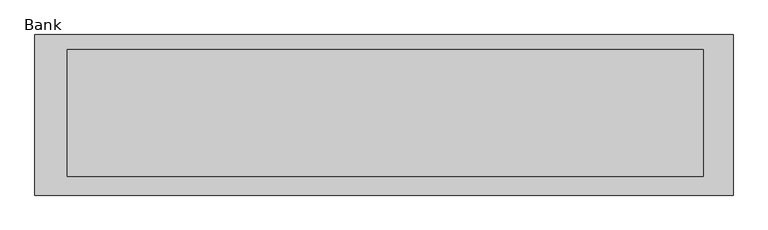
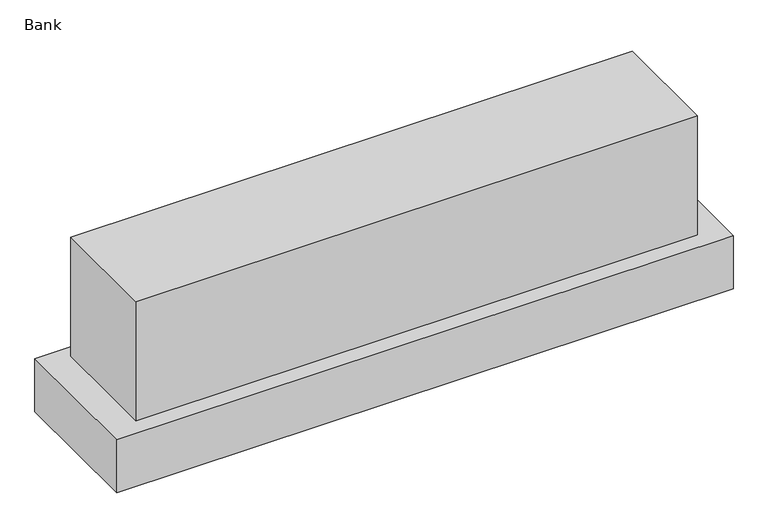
"""IFC4 building model written with IfcOpenShell, lengths in millimetres: furniture geometry, Fixierte Ausstattung Bank : Bank."""

import ifcopenshell
import ifcopenshell.guid

model = None  # the IFC model being written
_history = None  # IfcOwnerHistory: only IFC2X3 demands one
_inside = {}  # id of a spatial element -> (the spatial element, [elements in it])
_under = {}  # id of a project, library or spatial element -> (it, [spatial elements below it])
_declared = {}  # id of a project -> (the project, [libraries it declares])
_typed = {}  # id of a type object -> (the type object, [elements of that type])
_made_of = {}  # id of a material, layer set ... -> (it, [elements and type objects made of it])


def new_model(schema):
    """Start an empty IFC model of exactly this schema.

    Asked for "IFC4X3", IfcOpenShell would pick the latest addendum, in which some entities
    have other attributes; the version numbers below select the first issue.
    IFC2X3 requires an IfcOwnerHistory on every rooted entity: one is made here for all.
    """
    global model, _history
    if schema == "IFC4X3":
        model = ifcopenshell.file(schema_version=(4, 3, 0, 0))
    else:
        model = ifcopenshell.file(schema=schema)
    _inside.clear()
    _under.clear()
    _declared.clear()
    _typed.clear()
    _made_of.clear()
    _history = None
    if model.schema == "IFC2X3":
        org = make("IfcOrganization", Name="unknown")
        user = make(
            "IfcPersonAndOrganization",
            ThePerson=make("IfcPerson", FamilyName="unknown"),
            TheOrganization=org,
        )
        app = make(
            "IfcApplication",
            ApplicationDeveloper=org,
            Version="unknown",
            ApplicationFullName="unknown",
            ApplicationIdentifier="unknown",
        )
        _history = make(
            "IfcOwnerHistory",
            OwningUser=user,
            OwningApplication=app,
            ChangeAction="ADDED",
            CreationDate=0,
        )
    return model


def make(cls, **values):
    """One entity of the class cls with the attributes given. An attribute that is None is left unset."""
    return model.create_entity(
        cls, **{name: value for name, value in values.items() if value is not None}
    )


def rooted(cls, **values):
    """An entity with a GlobalId (a new one), such as an element, a storey or a relation."""
    return make(cls, GlobalId=ifcopenshell.guid.new(), OwnerHistory=_history, **values)


def si_unit(unit_type, name, prefix=None):
    """IfcSIUnit, for example si_unit("LENGTHUNIT", "METRE", prefix="MILLI")."""
    return make("IfcSIUnit", UnitType=unit_type, Prefix=prefix, Name=name)


def assignment(units):
    """IfcUnitAssignment: the units of a project."""
    return None if units is None else make("IfcUnitAssignment", Units=units)


def point(xyz):
    """IfcCartesianPoint."""
    return None if xyz is None else make("IfcCartesianPoint", Coordinates=xyz)


def direction(xyz):
    """IfcDirection."""
    return None if xyz is None else make("IfcDirection", DirectionRatios=xyz)


def frame(location, z_axis=None, x_axis=None):
    """IfcAxis2Placement3D, a coordinate frame: its origin and axes. An axis left out is left unset."""
    return make(
        "IfcAxis2Placement3D",
        Location=point(location),
        Axis=direction(z_axis),
        RefDirection=direction(x_axis),
    )


def origin():
    """The frame at (0, 0, 0) with its axes left unset."""
    return frame((0.0, 0.0, 0.0))


def origin_with_axes():
    """The frame at (0, 0, 0) with the z axis (0, 0, 1) and the x axis (1, 0, 0) written out."""
    return frame((0.0, 0.0, 0.0), z_axis=(0.0, 0.0, 1.0), x_axis=(1.0, 0.0, 0.0))


def place(relative_to, where):
    """IfcLocalPlacement: puts the frame where relative to a parent placement (None: the world)."""
    return make(
        "IfcLocalPlacement", PlacementRelTo=relative_to, RelativePlacement=where
    )


def context(
    kind, dimensions, precision=None, world=None, true_north=None, identifier=None
):
    """IfcGeometricRepresentationContext, for example the 3D "Model" context."""
    return make(
        "IfcGeometricRepresentationContext",
        ContextIdentifier=identifier,
        ContextType=kind,
        CoordinateSpaceDimension=dimensions,
        Precision=precision,
        WorldCoordinateSystem=world,
        TrueNorth=true_north,
    )


def project(units=None, contexts=None):
    """IfcProject with its units and contexts."""
    return rooted(
        "IfcProject",
        Name="project",
        RepresentationContexts=contexts,
        UnitsInContext=assignment(units),
    )


def spatial(cls, under=None, at=None, **own):
    """A site, building, storey or space (cls), placed at a placement, below another one or the project."""
    s = rooted(cls, ObjectPlacement=at, **own)
    if under is not None:
        _under.setdefault(under.id(), (under, []))[1].append(s)
    return s


def polyline(points):
    """IfcPolyline through the points."""
    return make("IfcPolyline", Points=[point(p) for p in points])


def outline(outer, holes=None, kind="AREA"):
    """IfcArbitraryClosedProfileDef: a profile drawn as a closed curve; with holes, ...WithVoids."""
    if holes is None:
        return make("IfcArbitraryClosedProfileDef", ProfileType=kind, OuterCurve=outer)
    return make(
        "IfcArbitraryProfileDefWithVoids",
        ProfileType=kind,
        OuterCurve=outer,
        InnerCurves=holes,
    )


def extrude(swept, where, along, depth):
    """IfcExtrudedAreaSolid: the profile swept, set in the frame where, extruded along a direction by depth."""
    return make(
        "IfcExtrudedAreaSolid",
        SweptArea=swept,
        Position=where,
        ExtrudedDirection=direction(along),
        Depth=depth,
    )


def shape(context_of_items, identifier, shape_type, items):
    """IfcShapeRepresentation: the items that make up one representation, for example the "Body"."""
    return make(
        "IfcShapeRepresentation",
        ContextOfItems=context_of_items,
        RepresentationIdentifier=identifier,
        RepresentationType=shape_type,
        Items=items,
    )


def source(mapping_origin, context_of_items, identifier, shape_type, items):
    """IfcRepresentationMap: a shape defined once, which mapped items show again and again."""
    return make(
        "IfcRepresentationMap",
        MappingOrigin=mapping_origin,
        MappedRepresentation=shape(context_of_items, identifier, shape_type, items),
    )


def transform(
    local_origin,
    x_axis=None,
    y_axis=None,
    z_axis=None,
    scale=None,
    scale2=None,
    scale3=None,
    uniform=True,
):
    """IfcCartesianTransformationOperator3D, or its non-uniform kind. x_axis, y_axis, z_axis: its Axis1, 2, 3."""
    if uniform:
        return make(
            "IfcCartesianTransformationOperator3D",
            Axis1=direction(x_axis),
            Axis2=direction(y_axis),
            LocalOrigin=point(local_origin),
            Scale=scale,
            Axis3=direction(z_axis),
        )
    return make(
        "IfcCartesianTransformationOperator3DnonUniform",
        Axis1=direction(x_axis),
        Axis2=direction(y_axis),
        LocalOrigin=point(local_origin),
        Scale=scale,
        Axis3=direction(z_axis),
        Scale2=scale2,
        Scale3=scale3,
    )


def mapped(mapping_source, mapping_target):
    """IfcMappedItem: shows the shape of a source again, moved by a transform."""
    return make(
        "IfcMappedItem", MappingSource=mapping_source, MappingTarget=mapping_target
    )


def made_of(thing, what):
    """Note that an element or type object is made of a material, layer set ...; save() writes the relation."""
    if what is not None:
        _made_of.setdefault(what.id(), (what, []))[1].append(thing)
    return thing


def element(
    cls,
    number,
    at=None,
    inside=None,
    cuts=None,
    type_object=None,
    material=None,
    context=None,
    identifier="Body",
    shape_type=None,
    held_by="IfcProductDefinitionShape",
    body=None,
    shapes=None,
    **own,
):
    """One element of the class cls, such as IfcWall. Its Tag is "e" and its number.

    at: its placement. inside: the storey or other place that contains it. cuts: it is an
    opening in that element (IfcRelVoidsElement). A single representation is given by context,
    identifier, shape_type and body (its items); several are given by shapes. held_by: the class
    of the entity that holds the representations. save() writes the other relations.
    """
    e = rooted(cls, Tag="e%d" % number, ObjectPlacement=at, **own)
    if body is not None:
        shapes = [shape(context, identifier, shape_type, body)]
    if shapes is not None:
        e.Representation = make(held_by, Representations=shapes)
    if inside is not None:
        _inside.setdefault(inside.id(), (inside, []))[1].append(e)
    if cuts is not None:
        rooted(
            "IfcRelVoidsElement", RelatingBuildingElement=cuts, RelatedOpeningElement=e
        )
    if type_object is not None:
        _typed.setdefault(type_object.id(), (type_object, []))[1].append(e)
    return made_of(e, material)


def aggregate(whole, parts):
    """IfcRelAggregates: a whole, such as a stair, and the parts it consists of."""
    return rooted("IfcRelAggregates", RelatingObject=whole, RelatedObjects=parts)


def save(model, path):
    """Write the relations noted so far, then the file.

    IfcRelAggregates (storeys below a building ...), IfcRelContainedInSpatialStructure (elements
    in a storey), IfcRelDefinesByType, IfcRelAssociatesMaterial and IfcRelDeclares: one each for
    every whole, place, type object, material and project.
    """
    for whole, parts in _under.values():
        aggregate(whole, parts)
    for where, things in _inside.values():
        rooted(
            "IfcRelContainedInSpatialStructure",
            RelatedElements=things,
            RelatingStructure=where,
        )
    for kind, things in _typed.values():
        rooted("IfcRelDefinesByType", RelatedObjects=things, RelatingType=kind)
    for what, things in _made_of.values():
        rooted("IfcRelAssociatesMaterial", RelatedObjects=things, RelatingMaterial=what)
    for by, libraries in _declared.values():
        rooted("IfcRelDeclares", RelatingContext=by, RelatedDefinitions=libraries)
    model.write(path)


def bank_18354e37(model_context):
    return source(origin(), model_context, "Body", "SweptSolid", [
        extrude(outline(polyline([(1093.6807613, -258.36829), (-1101.3192387, -258.36829), (-1101.3192387, 246.5751298), (1093.6807613, 246.5751298), (1093.6807613, -258.36829)])), frame((0.0, 0.0, -200.0), z_axis=(0.0, 0.0, 1.0), x_axis=(1.0, 0.0, 0.0)), (0.0, 0.0, 1.0), 200.0),
        extrude(outline(polyline([(1000.0, 200.0), (1000.0, -200.0), (-1000.0, -200.0), (-1000.0, 200.0), (1000.0, 200.0)])), origin_with_axes(), (0.0, 0.0, 1.0), 450.0),
    ])


if __name__ == "__main__":
    model = new_model("IFC4")
    model_context = context("Model", 3, world=origin())
    ifc_project = project(units=[si_unit("LENGTHUNIT", "METRE", prefix="MILLI")], contexts=[model_context])
    site = spatial("IfcSite", under=ifc_project)
    building = spatial("IfcBuilding", under=site)
    placement = place(None, origin())
    bank_shape = bank_18354e37(model_context)
    element("IfcFurniture", 1, ObjectType="Fixierte Ausstattung Bank : Bank", at=placement, inside=building, context=model_context, shape_type="MappedRepresentation", body=[
        mapped(bank_shape, transform((0.0, 0.0, 0.0), x_axis=(1.0, 0.0, 0.0), y_axis=(0.0, 1.0, 0.0), z_axis=(0.0, 0.0, 1.0))),
    ])
    save(model, "model.ifc")
